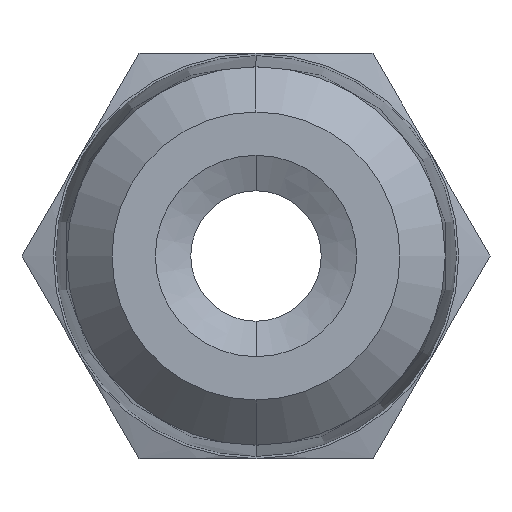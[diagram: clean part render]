
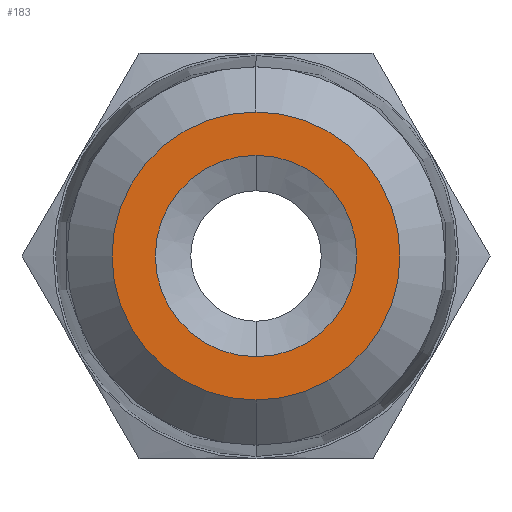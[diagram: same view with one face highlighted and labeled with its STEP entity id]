
A CAD part, left-side view. The second image highlights one B-rep face of the part: STEP entity #183.
In plain terms, the highlighted planar face has unit normal (-1, 0, 0).
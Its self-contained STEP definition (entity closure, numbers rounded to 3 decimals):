
#77 = EDGE_LOOP ( 'NONE', ( #78, #216 ) ) ;
#78 = ORIENTED_EDGE ( 'NONE', *, *, #182, .F. ) ;
#182 = EDGE_CURVE ( 'NONE', #1182, #1181, #400, .T. ) ;
#183 = ADVANCED_FACE ( 'NONE', ( #395, #394 ), #392, .T. ) ;
#184 = EDGE_LOOP ( 'NONE', ( #185, #187 ) ) ;
#185 = ORIENTED_EDGE ( 'NONE', *, *, #186, .T. ) ;
#186 = EDGE_CURVE ( 'NONE', #1212, #1211, #353, .T. ) ;
#187 = ORIENTED_EDGE ( 'NONE', *, *, #1210, .T. ) ;
#216 = ORIENTED_EDGE ( 'NONE', *, *, #1169, .F. ) ;
#349 = DIRECTION ( 'NONE',  ( 0., 0., 1. ) ) ;
#350 = DIRECTION ( 'NONE',  ( -1., 0., 0. ) ) ;
#351 = CARTESIAN_POINT ( 'NONE',  ( -14., 0., 0. ) ) ;
#352 = AXIS2_PLACEMENT_3D ( 'NONE', #351, #350, #349 ) ;
#353 = CIRCLE ( 'NONE', #352, 5.077 ) ;
#354 = DIRECTION ( 'NONE',  ( 0., 0., 1. ) ) ;
#355 = DIRECTION ( 'NONE',  ( -1., 0., 0. ) ) ;
#356 = CARTESIAN_POINT ( 'NONE',  ( -14., 0., 0. ) ) ;
#392 = PLANE ( 'NONE',  #393 ) ;
#393 = AXIS2_PLACEMENT_3D ( 'NONE', #356, #355, #354 ) ;
#394 = FACE_BOUND ( 'NONE', #77, .T. ) ;
#395 = FACE_OUTER_BOUND ( 'NONE', #184, .T. ) ;
#396 = DIRECTION ( 'NONE',  ( 0., 0., 1. ) ) ;
#397 = DIRECTION ( 'NONE',  ( -1., 0., 0. ) ) ;
#398 = CARTESIAN_POINT ( 'NONE',  ( -14., 0., 0. ) ) ;
#399 = AXIS2_PLACEMENT_3D ( 'NONE', #398, #397, #396 ) ;
#400 = CIRCLE ( 'NONE', #399, 3.55 ) ;
#501 = DIRECTION ( 'NONE',  ( 0., 0., 1. ) ) ;
#502 = DIRECTION ( 'NONE',  ( -1., 0., 0. ) ) ;
#503 = AXIS2_PLACEMENT_3D ( 'NONE', #651, #502, #501 ) ;
#504 = CIRCLE ( 'NONE', #503, 3.55 ) ;
#651 = CARTESIAN_POINT ( 'NONE',  ( -14., 0., 0. ) ) ;
#713 = CARTESIAN_POINT ( 'NONE',  ( -14., 0., 3.55 ) ) ;
#714 = CARTESIAN_POINT ( 'NONE',  ( -14., 0., -3.55 ) ) ;
#811 = CARTESIAN_POINT ( 'NONE',  ( -14., 0., -5.077 ) ) ;
#812 = CARTESIAN_POINT ( 'NONE',  ( -14., 0., 5.077 ) ) ;
#813 = DIRECTION ( 'NONE',  ( 0., 0., 1. ) ) ;
#814 = DIRECTION ( 'NONE',  ( -1., 0., 0. ) ) ;
#815 = CARTESIAN_POINT ( 'NONE',  ( -14., 0., 0. ) ) ;
#816 = AXIS2_PLACEMENT_3D ( 'NONE', #815, #814, #813 ) ;
#817 = CIRCLE ( 'NONE', #816, 5.077 ) ;
#1169 = EDGE_CURVE ( 'NONE', #1181, #1182, #504, .T. ) ;
#1181 = VERTEX_POINT ( 'NONE', #714 ) ;
#1182 = VERTEX_POINT ( 'NONE', #713 ) ;
#1210 = EDGE_CURVE ( 'NONE', #1211, #1212, #817, .T. ) ;
#1211 = VERTEX_POINT ( 'NONE', #812 ) ;
#1212 = VERTEX_POINT ( 'NONE', #811 ) ;
